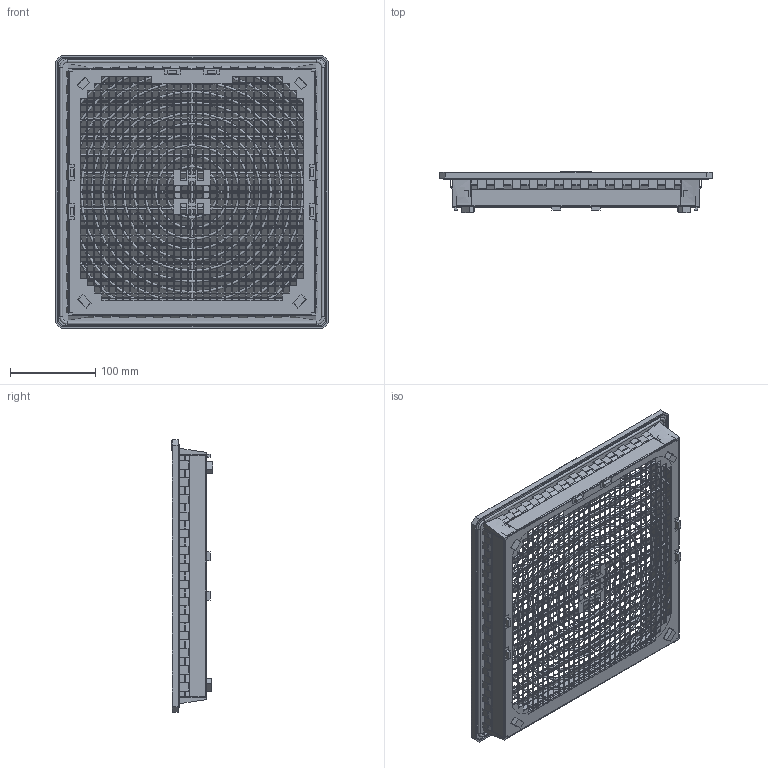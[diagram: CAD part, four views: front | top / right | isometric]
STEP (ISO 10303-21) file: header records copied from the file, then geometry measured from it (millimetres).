
FILE_DESCRIPTION (( 'STEP AP203' ), '1' );
FILE_NAME ('PFA 60EMV_PDG.STEP', '2021-11-24T12:18:32', ( '' ), ( '' ), 'SwSTEP 2.0', 'SolidWorks 2021', '' );
FILE_SCHEMA (( 'CONFIG_CONTROL_DESIGN' ));
Length unit declared in the file: millimetre
Products named in the file (1): PFA 60EMV_PDG
Bounding box: 320 x 48.5 x 320 mm (x, y, z)
Surface area: 565552.5 mm2 (no closed solid volume)
Topology: 0 solids, 18 shells, 4704 faces, 15248 edges, 10418 vertices
Faces by surface type: plane 4288, cylinder 338, torus 60, bspline 18
Entity records: 176109 total; most frequent: CARTESIAN_POINT 40349, ORIENTED_EDGE 28521, DIRECTION 24513, EDGE_CURVE 15248, VECTOR 13555, LINE 13555, VERTEX_POINT 10418, EDGE_LOOP 6669
